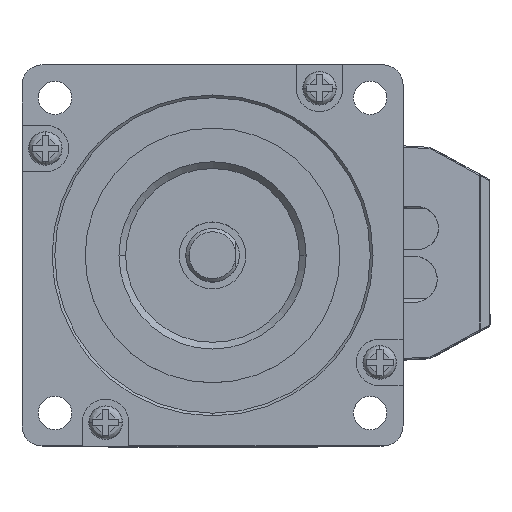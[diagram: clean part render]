
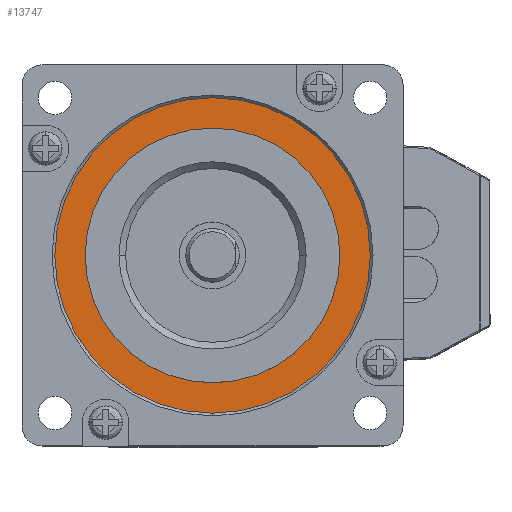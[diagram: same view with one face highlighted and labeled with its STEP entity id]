
A CAD part, top view. The second image highlights one B-rep face of the part: STEP entity #13747.
In plain terms, the highlighted planar face has unit normal (0, 0, 1).
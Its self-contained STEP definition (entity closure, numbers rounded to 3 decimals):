
#277 = VERTEX_POINT ( 'NONE', #9392 ) ;
#371 = CIRCLE ( 'NONE', #14974, 19.05 ) ;
#871 = CARTESIAN_POINT ( 'NONE',  ( 19.05, 0., 11.6 ) ) ;
#940 = CARTESIAN_POINT ( 'NONE',  ( 0., 0., 11.6 ) ) ;
#1027 = VERTEX_POINT ( 'NONE', #3260 ) ;
#1098 = DIRECTION ( 'NONE',  ( 0., 0., 1. ) ) ;
#1992 = CIRCLE ( 'NONE', #10161, 23.6 ) ;
#2206 = DIRECTION ( 'NONE',  ( 0., -1., 0. ) ) ;
#2536 = VERTEX_POINT ( 'NONE', #871 ) ;
#3260 = CARTESIAN_POINT ( 'NONE',  ( 0., -23.6, 11.6 ) ) ;
#3323 = FACE_BOUND ( 'NONE', #9886, .T. ) ;
#3341 = DIRECTION ( 'NONE',  ( 0., 0., 1. ) ) ;
#4328 = ORIENTED_EDGE ( 'NONE', *, *, #6601, .F. ) ;
#5290 = CIRCLE ( 'NONE', #9805, 23.6 ) ;
#5416 = CARTESIAN_POINT ( 'NONE',  ( 0., 0., 11.6 ) ) ;
#5825 = ORIENTED_EDGE ( 'NONE', *, *, #14266, .F. ) ;
#6550 = ORIENTED_EDGE ( 'NONE', *, *, #7594, .T. ) ;
#6601 = EDGE_CURVE ( 'NONE', #2536, #277, #14585, .T. ) ;
#6652 = DIRECTION ( 'NONE',  ( 0., -1., 0. ) ) ;
#7206 = DIRECTION ( 'NONE',  ( 0., 0., 1. ) ) ;
#7371 = VERTEX_POINT ( 'NONE', #9214 ) ;
#7594 = EDGE_CURVE ( 'NONE', #1027, #7371, #5290, .T. ) ;
#8631 = CARTESIAN_POINT ( 'NONE',  ( 0., 0., 11.6 ) ) ;
#9214 = CARTESIAN_POINT ( 'NONE',  ( 0., 23.6, 11.6 ) ) ;
#9392 = CARTESIAN_POINT ( 'NONE',  ( -19.05, 0., 11.6 ) ) ;
#9759 = DIRECTION ( 'NONE',  ( 0., 0., 1. ) ) ;
#9805 = AXIS2_PLACEMENT_3D ( 'NONE', #940, #9759, #2206 ) ;
#9886 = EDGE_LOOP ( 'NONE', ( #4328, #5825 ) ) ;
#9902 = DIRECTION ( 'NONE',  ( 1., 0., 0. ) ) ;
#10161 = AXIS2_PLACEMENT_3D ( 'NONE', #5416, #14229, #6652 ) ;
#10843 = CARTESIAN_POINT ( 'NONE',  ( 0., 0., 11.6 ) ) ;
#10880 = CARTESIAN_POINT ( 'NONE',  ( 0., 0., 11.6 ) ) ;
#11189 = EDGE_CURVE ( 'NONE', #7371, #1027, #1992, .T. ) ;
#12154 = DIRECTION ( 'NONE',  ( 1., 0., 0. ) ) ;
#12993 = FACE_OUTER_BOUND ( 'NONE', #15138, .T. ) ;
#13747 = ADVANCED_FACE ( 'NONE', ( #12993, #3323 ), #14755, .T. ) ;
#13920 = AXIS2_PLACEMENT_3D ( 'NONE', #10843, #7206, #16025 ) ;
#14173 = ORIENTED_EDGE ( 'NONE', *, *, #11189, .T. ) ;
#14229 = DIRECTION ( 'NONE',  ( 0., 0., 1. ) ) ;
#14266 = EDGE_CURVE ( 'NONE', #277, #2536, #371, .T. ) ;
#14458 = AXIS2_PLACEMENT_3D ( 'NONE', #8631, #1098, #9902 ) ;
#14585 = CIRCLE ( 'NONE', #14458, 19.05 ) ;
#14755 = PLANE ( 'NONE',  #13920 ) ;
#14974 = AXIS2_PLACEMENT_3D ( 'NONE', #10880, #3341, #12154 ) ;
#15138 = EDGE_LOOP ( 'NONE', ( #6550, #14173 ) ) ;
#16025 = DIRECTION ( 'NONE',  ( 1., 0., 0. ) ) ;
